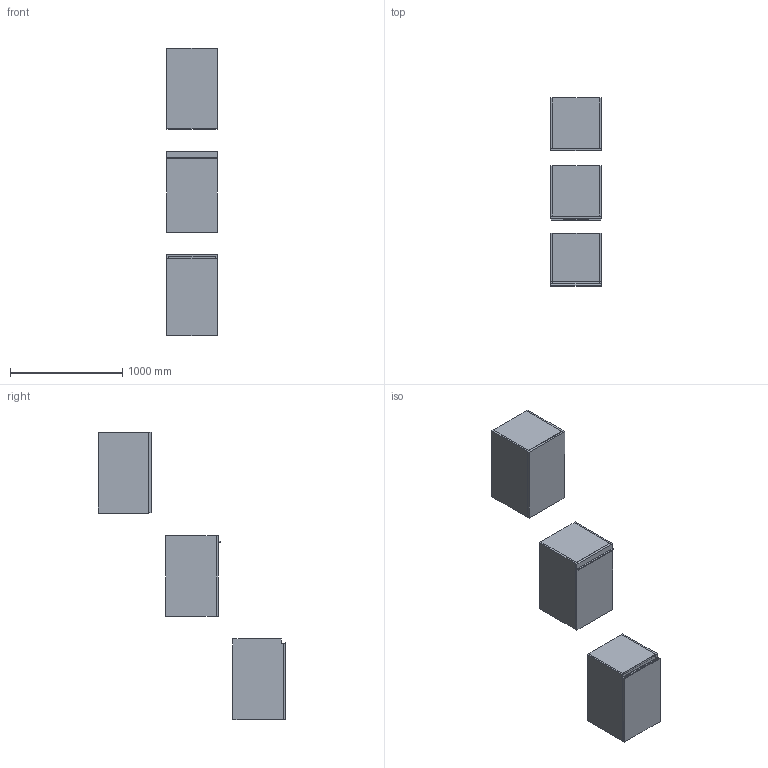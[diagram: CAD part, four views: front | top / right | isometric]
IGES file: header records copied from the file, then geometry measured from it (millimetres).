
Start section: Data from Parasolid IGES Translator 19.0.9, Copyright(c) 2006 Siemens PL M Software. All Rights Reserved.
Global section: file name: noorth-SI-H 72 D 47 W 45_8620.igs; native system: By Siemens PLM Incorporated; preprocessor: XPlus GENERIC/IGES 19.0.9; author: Noname; organization: Noname; date: 20200601.115840; units: metre
Bounding box: 450.01 x 1669.1 x 2560 mm (x, y, z)
Volume: 69487688.1 mm3; surface area: 10355390.5 mm2
Topology: 20 solids, 20 shells, 178 faces, 382 edges, 234 vertices
Faces by surface type: plane 134, extrusion 16, bspline 16, cylinder 12
